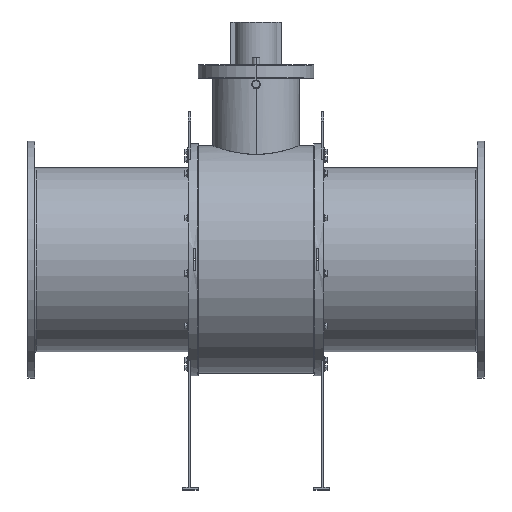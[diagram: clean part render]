
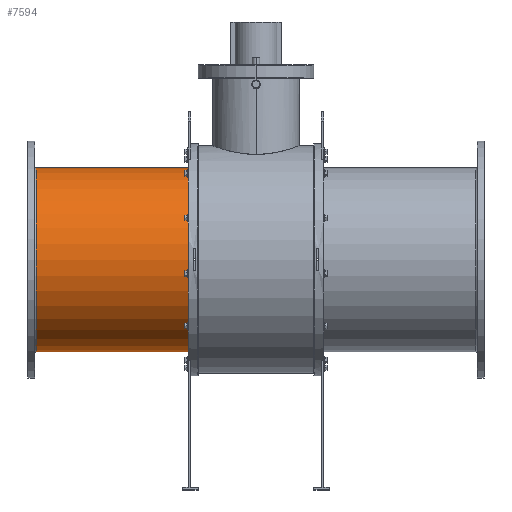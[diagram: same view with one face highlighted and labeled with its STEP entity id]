
A CAD part, top view. The second image highlights one B-rep face of the part: STEP entity #7594.
In plain terms, the highlighted cylindrical face has radius 377.2 mm (diameter 754.4 mm), a partial arc.
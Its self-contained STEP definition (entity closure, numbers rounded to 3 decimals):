
#377 = EDGE_LOOP ( 'NONE', ( #5257, #7047, #8749, #5209 ) ) ;
#946 = CIRCLE ( 'NONE', #3009, 377.2 ) ;
#1271 = CARTESIAN_POINT ( 'NONE',  ( -903., -377.2, 0. ) ) ;
#1406 = VERTEX_POINT ( 'NONE', #8286 ) ;
#1652 = DIRECTION ( 'NONE',  ( 0., 0., 1. ) ) ;
#1999 = LINE ( 'NONE', #4349, #11958 ) ;
#2578 = DIRECTION ( 'NONE',  ( -1., 0., 0. ) ) ;
#3009 = AXIS2_PLACEMENT_3D ( 'NONE', #10356, #11414, #1652 ) ;
#4349 = CARTESIAN_POINT ( 'NONE',  ( -940., -377.2, 0. ) ) ;
#4659 = CARTESIAN_POINT ( 'NONE',  ( -940., 377.2, 0. ) ) ;
#5184 = CARTESIAN_POINT ( 'NONE',  ( -277.5, -377.2, 0. ) ) ;
#5209 = ORIENTED_EDGE ( 'NONE', *, *, #10513, .F. ) ;
#5257 = ORIENTED_EDGE ( 'NONE', *, *, #13975, .T. ) ;
#5923 = LINE ( 'NONE', #4659, #12400 ) ;
#6921 = CARTESIAN_POINT ( 'NONE',  ( -277.5, 377.2, 0. ) ) ;
#7047 = ORIENTED_EDGE ( 'NONE', *, *, #10218, .T. ) ;
#7060 = DIRECTION ( 'NONE',  ( 0., -1., 0. ) ) ;
#7160 = CARTESIAN_POINT ( 'NONE',  ( -940., 0., 0. ) ) ;
#7173 = VERTEX_POINT ( 'NONE', #1271 ) ;
#7233 = CYLINDRICAL_SURFACE ( 'NONE', #8968, 377.2 ) ;
#7335 = CIRCLE ( 'NONE', #11218, 377.2 ) ;
#7594 = ADVANCED_FACE ( 'NONE', ( #8518 ), #7233, .T. ) ;
#8286 = CARTESIAN_POINT ( 'NONE',  ( -903., 377.2, 0. ) ) ;
#8518 = FACE_OUTER_BOUND ( 'NONE', #377, .T. ) ;
#8640 = EDGE_CURVE ( 'NONE', #1406, #7173, #7335, .T. ) ;
#8749 = ORIENTED_EDGE ( 'NONE', *, *, #8640, .T. ) ;
#8968 = AXIS2_PLACEMENT_3D ( 'NONE', #7160, #11505, #13905 ) ;
#9428 = CARTESIAN_POINT ( 'NONE',  ( -903., 0., 0. ) ) ;
#9559 = DIRECTION ( 'NONE',  ( 1., 0., 0. ) ) ;
#10218 = EDGE_CURVE ( 'NONE', #10234, #1406, #5923, .T. ) ;
#10234 = VERTEX_POINT ( 'NONE', #6921 ) ;
#10356 = CARTESIAN_POINT ( 'NONE',  ( -277.5, 0., 0. ) ) ;
#10513 = EDGE_CURVE ( 'NONE', #14039, #7173, #1999, .T. ) ;
#10767 = DIRECTION ( 'NONE',  ( -1., 0., 0. ) ) ;
#11218 = AXIS2_PLACEMENT_3D ( 'NONE', #9428, #9559, #7060 ) ;
#11414 = DIRECTION ( 'NONE',  ( -1., 0., 0. ) ) ;
#11505 = DIRECTION ( 'NONE',  ( -1., 0., 0. ) ) ;
#11958 = VECTOR ( 'NONE', #10767, 1000. ) ;
#12400 = VECTOR ( 'NONE', #2578, 1000. ) ;
#13905 = DIRECTION ( 'NONE',  ( 0., -1., 0. ) ) ;
#13975 = EDGE_CURVE ( 'NONE', #14039, #10234, #946, .T. ) ;
#14039 = VERTEX_POINT ( 'NONE', #5184 ) ;
